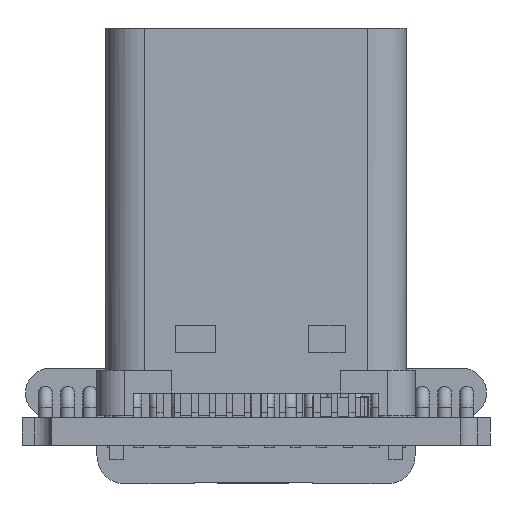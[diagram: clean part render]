
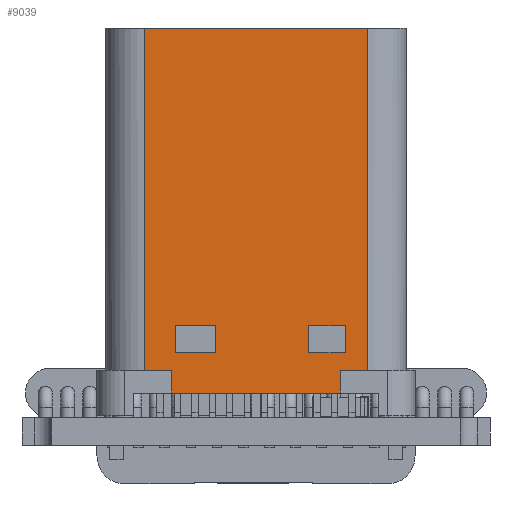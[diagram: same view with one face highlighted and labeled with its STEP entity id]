
A CAD part, front view. The second image highlights one B-rep face of the part: STEP entity #9039.
In plain terms, the highlighted planar face has unit normal (0, -1, 0) as drawn and (0, 0, 1) by its records, which use the part's own axes.
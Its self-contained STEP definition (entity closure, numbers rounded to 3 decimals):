
#7372 = VERTEX_POINT('',#7373);
#7373 = CARTESIAN_POINT('',(-2.13,0.65,-0.25));
#7379 = EDGE_CURVE('',#7380,#7372,#7382,.T.);
#7380 = VERTEX_POINT('',#7381);
#7381 = CARTESIAN_POINT('',(-6.98,0.65,-0.25));
#7382 = LINE('',#7383,#7384);
#7383 = CARTESIAN_POINT('',(-7.76,0.65,-0.25));
#7384 = VECTOR('',#7385,1.);
#7385 = DIRECTION('',(1.,0.,0.));
#8333 = VERTEX_POINT('',#8334);
#8334 = CARTESIAN_POINT('',(-1.35,1.3,-0.25));
#8341 = EDGE_CURVE('',#8342,#8333,#8344,.T.);
#8342 = VERTEX_POINT('',#8343);
#8343 = CARTESIAN_POINT('',(-2.13,1.3,-0.25));
#8344 = LINE('',#8345,#8346);
#8345 = CARTESIAN_POINT('',(-0.25,1.3,-0.25));
#8346 = VECTOR('',#8347,1.);
#8347 = DIRECTION('',(1.,0.,0.));
#8664 = VERTEX_POINT('',#8665);
#8665 = CARTESIAN_POINT('',(-7.76,1.3,-0.25));
#8706 = VERTEX_POINT('',#8707);
#8707 = CARTESIAN_POINT('',(-6.98,1.3,-0.25));
#8713 = EDGE_CURVE('',#8664,#8706,#8714,.T.);
#8714 = LINE('',#8715,#8716);
#8715 = CARTESIAN_POINT('',(-0.25,1.3,-0.25));
#8716 = VECTOR('',#8717,1.);
#8717 = DIRECTION('',(1.,0.,0.));
#8905 = VERTEX_POINT('',#8906);
#8906 = CARTESIAN_POINT('',(-7.76,11.1,-0.25));
#8913 = EDGE_CURVE('',#8905,#8914,#8916,.T.);
#8914 = VERTEX_POINT('',#8915);
#8915 = CARTESIAN_POINT('',(-1.35,11.1,-0.25));
#8916 = LINE('',#8917,#8918);
#8917 = CARTESIAN_POINT('',(-0.25,11.1,-0.25));
#8918 = VECTOR('',#8919,1.);
#8919 = DIRECTION('',(1.,0.,0.));
#9039 = ADVANCED_FACE('',(#9040,#9074,#9108),#9138,.F.);
#9040 = FACE_BOUND('',#9041,.T.);
#9041 = EDGE_LOOP('',(#9042,#9052,#9060,#9068));
#9042 = ORIENTED_EDGE('',*,*,#9043,.F.);
#9043 = EDGE_CURVE('',#9044,#9046,#9048,.T.);
#9044 = VERTEX_POINT('',#9045);
#9045 = CARTESIAN_POINT('',(-6.863,1.805,-0.25));
#9046 = VERTEX_POINT('',#9047);
#9047 = CARTESIAN_POINT('',(-5.709,1.805,-0.25));
#9048 = LINE('',#9049,#9050);
#9049 = CARTESIAN_POINT('',(-6.863,1.805,-0.25));
#9050 = VECTOR('',#9051,1.);
#9051 = DIRECTION('',(1.,0.,0.));
#9052 = ORIENTED_EDGE('',*,*,#9053,.F.);
#9053 = EDGE_CURVE('',#9054,#9044,#9056,.T.);
#9054 = VERTEX_POINT('',#9055);
#9055 = CARTESIAN_POINT('',(-6.863,2.582,-0.25));
#9056 = LINE('',#9057,#9058);
#9057 = CARTESIAN_POINT('',(-6.863,1.805,-0.25));
#9058 = VECTOR('',#9059,1.);
#9059 = DIRECTION('',(0.,-1.,0.));
#9060 = ORIENTED_EDGE('',*,*,#9061,.F.);
#9061 = EDGE_CURVE('',#9062,#9054,#9064,.T.);
#9062 = VERTEX_POINT('',#9063);
#9063 = CARTESIAN_POINT('',(-5.709,2.582,-0.25));
#9064 = LINE('',#9065,#9066);
#9065 = CARTESIAN_POINT('',(-6.863,2.582,-0.25));
#9066 = VECTOR('',#9067,1.);
#9067 = DIRECTION('',(-1.,0.,0.));
#9068 = ORIENTED_EDGE('',*,*,#9069,.F.);
#9069 = EDGE_CURVE('',#9046,#9062,#9070,.T.);
#9070 = LINE('',#9071,#9072);
#9071 = CARTESIAN_POINT('',(-5.709,1.805,-0.25));
#9072 = VECTOR('',#9073,1.);
#9073 = DIRECTION('',(0.,1.,0.));
#9074 = FACE_BOUND('',#9075,.T.);
#9075 = EDGE_LOOP('',(#9076,#9086,#9094,#9102));
#9076 = ORIENTED_EDGE('',*,*,#9077,.F.);
#9077 = EDGE_CURVE('',#9078,#9080,#9082,.T.);
#9078 = VERTEX_POINT('',#9079);
#9079 = CARTESIAN_POINT('',(-1.995,2.582,-0.25));
#9080 = VERTEX_POINT('',#9081);
#9081 = CARTESIAN_POINT('',(-3.053,2.582,-0.25));
#9082 = LINE('',#9083,#9084);
#9083 = CARTESIAN_POINT('',(-1.995,2.582,-0.25));
#9084 = VECTOR('',#9085,1.);
#9085 = DIRECTION('',(-1.,0.,0.));
#9086 = ORIENTED_EDGE('',*,*,#9087,.F.);
#9087 = EDGE_CURVE('',#9088,#9078,#9090,.T.);
#9088 = VERTEX_POINT('',#9089);
#9089 = CARTESIAN_POINT('',(-1.995,1.805,-0.25));
#9090 = LINE('',#9091,#9092);
#9091 = CARTESIAN_POINT('',(-1.995,1.805,-0.25));
#9092 = VECTOR('',#9093,1.);
#9093 = DIRECTION('',(0.,1.,0.));
#9094 = ORIENTED_EDGE('',*,*,#9095,.F.);
#9095 = EDGE_CURVE('',#9096,#9088,#9098,.T.);
#9096 = VERTEX_POINT('',#9097);
#9097 = CARTESIAN_POINT('',(-3.053,1.805,-0.25));
#9098 = LINE('',#9099,#9100);
#9099 = CARTESIAN_POINT('',(-1.995,1.805,-0.25));
#9100 = VECTOR('',#9101,1.);
#9101 = DIRECTION('',(1.,0.,0.));
#9102 = ORIENTED_EDGE('',*,*,#9103,.F.);
#9103 = EDGE_CURVE('',#9080,#9096,#9104,.T.);
#9104 = LINE('',#9105,#9106);
#9105 = CARTESIAN_POINT('',(-3.053,1.805,-0.25));
#9106 = VECTOR('',#9107,1.);
#9107 = DIRECTION('',(0.,-1.,0.));
#9108 = FACE_BOUND('',#9109,.T.);
#9109 = EDGE_LOOP('',(#9110,#9111,#9117,#9118,#9124,#9125,#9131,#9132));
#9110 = ORIENTED_EDGE('',*,*,#8713,.T.);
#9111 = ORIENTED_EDGE('',*,*,#9112,.F.);
#9112 = EDGE_CURVE('',#7380,#8706,#9113,.T.);
#9113 = LINE('',#9114,#9115);
#9114 = CARTESIAN_POINT('',(-6.98,0.65,-0.25));
#9115 = VECTOR('',#9116,1.);
#9116 = DIRECTION('',(0.,1.,0.));
#9117 = ORIENTED_EDGE('',*,*,#7379,.T.);
#9118 = ORIENTED_EDGE('',*,*,#9119,.F.);
#9119 = EDGE_CURVE('',#8342,#7372,#9120,.T.);
#9120 = LINE('',#9121,#9122);
#9121 = CARTESIAN_POINT('',(-2.13,0.65,-0.25));
#9122 = VECTOR('',#9123,1.);
#9123 = DIRECTION('',(0.,-1.,0.));
#9124 = ORIENTED_EDGE('',*,*,#8341,.T.);
#9125 = ORIENTED_EDGE('',*,*,#9126,.T.);
#9126 = EDGE_CURVE('',#8333,#8914,#9127,.T.);
#9127 = LINE('',#9128,#9129);
#9128 = CARTESIAN_POINT('',(-1.35,11.1,-0.25));
#9129 = VECTOR('',#9130,1.);
#9130 = DIRECTION('',(0.,1.,0.));
#9131 = ORIENTED_EDGE('',*,*,#8913,.F.);
#9132 = ORIENTED_EDGE('',*,*,#9133,.T.);
#9133 = EDGE_CURVE('',#8905,#8664,#9134,.T.);
#9134 = LINE('',#9135,#9136);
#9135 = CARTESIAN_POINT('',(-7.76,11.1,-0.25));
#9136 = VECTOR('',#9137,1.);
#9137 = DIRECTION('',(0.,-1.,0.));
#9138 = PLANE('',#9139);
#9139 = AXIS2_PLACEMENT_3D('',#9140,#9141,#9142);
#9140 = CARTESIAN_POINT('',(-0.25,11.1,-0.25));
#9141 = DIRECTION('',(0.,0.,-1.));
#9142 = DIRECTION('',(-1.,0.,0.));
